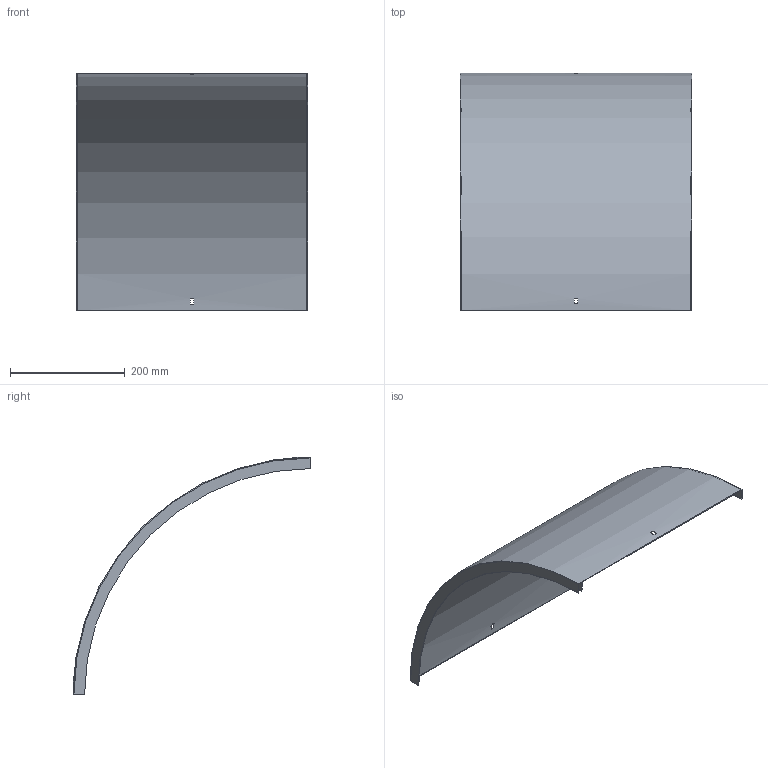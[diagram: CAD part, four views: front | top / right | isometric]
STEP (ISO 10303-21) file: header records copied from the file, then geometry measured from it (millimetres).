
FILE_DESCRIPTION (( 'STEP AP214' ), '1' );
FILE_NAME ('B2_33N3J400.step', '2025-02-21T10:47:38', ( '' ), ( '' ), 'SwSTEP 2.0', 'SolidWorks 2023', '' );
FILE_SCHEMA (( 'AUTOMOTIVE_DESIGN' ));
Length unit declared in the file: millimetre
Products named in the file (1): B2_33N3J400
Bounding box: 403 x 414 x 414 mm (x, y, z)
Volume: 427379.4 mm3; surface area: 573112.5 mm2
Topology: 1 solids, 1 shells, 18 faces, 48 edges, 32 vertices
Faces by surface type: plane 14, cylinder 4
Entity records: 599 total; most frequent: DIRECTION 102, CARTESIAN_POINT 99, ORIENTED_EDGE 96, EDGE_CURVE 48, AXIS2_PLACEMENT_3D 35, LINE 32, VERTEX_POINT 32, VECTOR 32
